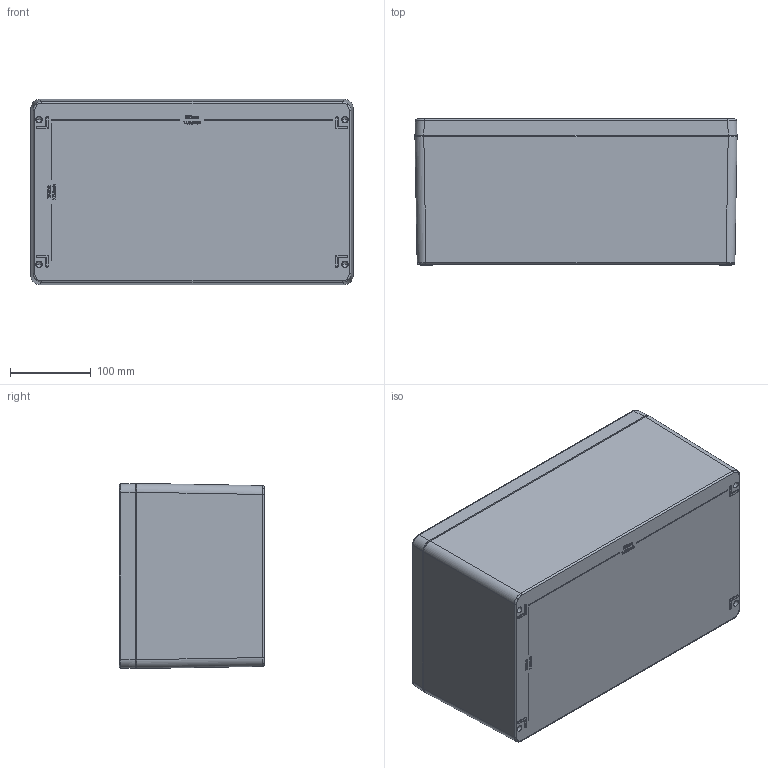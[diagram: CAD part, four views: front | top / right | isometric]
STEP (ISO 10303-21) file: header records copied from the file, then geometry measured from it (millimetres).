
FILE_DESCRIPTION (( 'STEP AP203' ), '1' );
FILE_NAME ('400x230x181 CLOSE.STEP', '2023-06-06T12:57:37', ( '' ), ( '' ), 'SwSTEP 2.0', 'SolidWorks 2017', '' );
FILE_SCHEMA (( 'CONFIG_CONTROL_DESIGN' ));
Length unit declared in the file: millimetre
Products named in the file (3): BASE 400X230X180; LID 400X230X180; 400x230x181 CLOSE
Assembly tree (2 placements, depth 2):
  400x230x181 CLOSE
    BASE 400X230X180
    LID 400X230X180
Bounding box: 400 x 181 x 230 mm (x, y, z)
Volume: 2203218 mm3; surface area: 839505.7 mm2
Topology: 3 solids, 3 shells, 1595 faces, 3968 edges, 2512 vertices
Faces by surface type: plane 696, bspline 351, cylinder 304, cone 244
Entity records: 63828 total; most frequent: CARTESIAN_POINT 27842, ORIENTED_EDGE 7892, DIRECTION 6537, EDGE_CURVE 3946, VERTEX_POINT 2512, LINE 2183, VECTOR 2183, AXIS2_PLACEMENT_3D 2177
